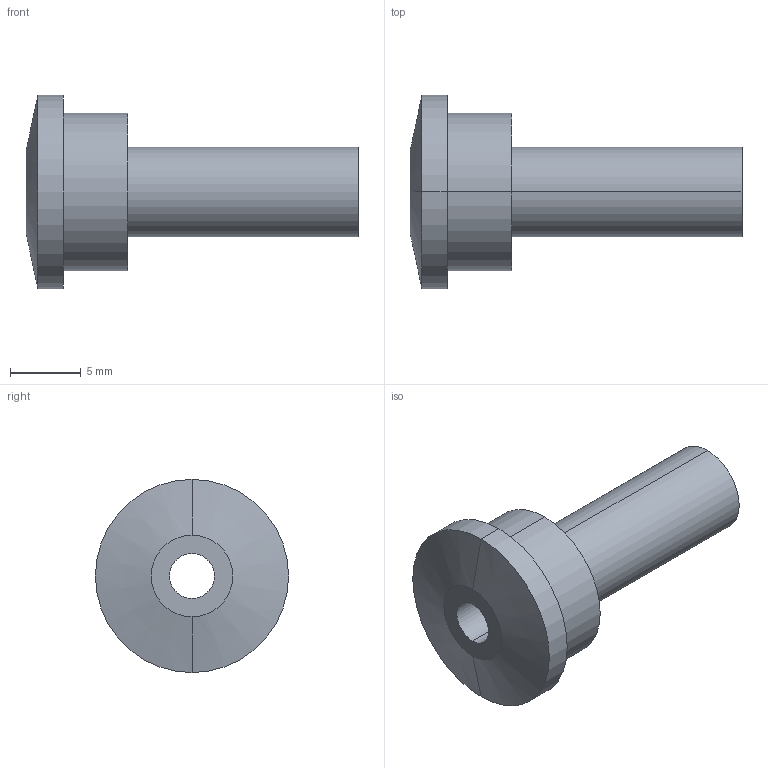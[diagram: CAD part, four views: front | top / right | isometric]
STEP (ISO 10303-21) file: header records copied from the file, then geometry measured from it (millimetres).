
FILE_DESCRIPTION (( 'STEP AP203' ), '1' );
FILE_NAME ('RF-4.STEP', '2019-12-27T20:47:44', ( '' ), ( '' ), 'SwSTEP 2.0', 'SolidWorks 2019', '' );
FILE_SCHEMA (( 'CONFIG_CONTROL_DESIGN' ));
Length unit declared in the file: inch
Products named in the file (1): RF-4
Bounding box: 23.44 x 13.64 x 13.64 mm (x, y, z)
Volume: 1096.7 mm3; surface area: 1072.8 mm2
Topology: 1 solids, 1 shells, 14 faces, 28 edges, 18 vertices
Faces by surface type: cylinder 8, plane 4, cone 2
Entity records: 457 total; most frequent: DIRECTION 76, CARTESIAN_POINT 61, ORIENTED_EDGE 56, AXIS2_PLACEMENT_3D 33, EDGE_CURVE 28, EDGE_LOOP 18, VERTEX_POINT 18, CIRCLE 18
